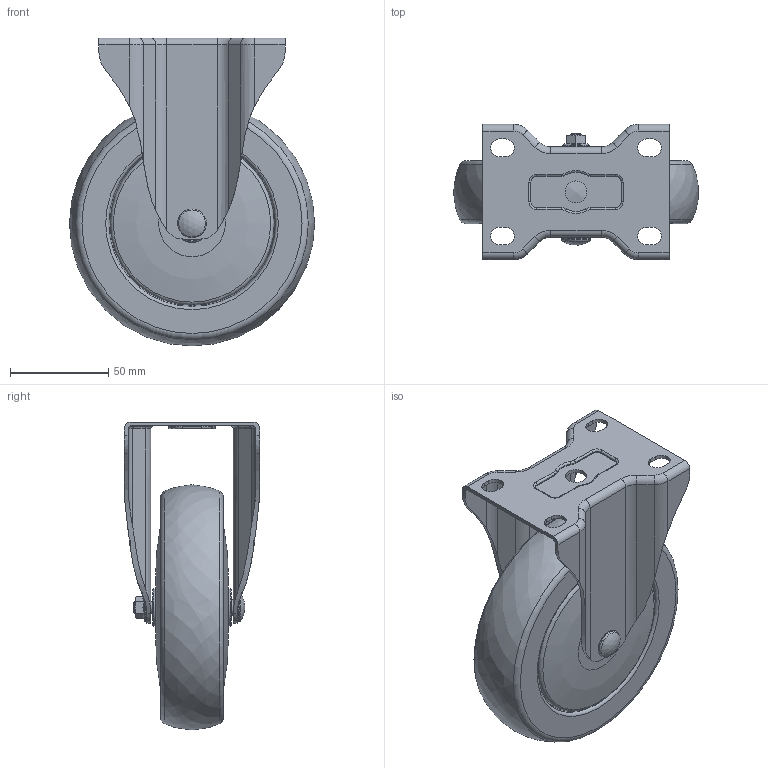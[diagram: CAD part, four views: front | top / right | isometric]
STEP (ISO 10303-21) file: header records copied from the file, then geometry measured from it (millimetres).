
FILE_DESCRIPTION((''),'2;1');
FILE_NAME('E:\GL-홈피용3D\3d step\가져온 구성요소\GL-125-ARF\GL-125-ARF.stp','2011-11-21T09:29:13',('Administrator'),(''),'Autodesk Inventor 2011','Autodesk Inventor 2011','');
FILE_SCHEMA(('AUTOMOTIVE_DESIGN { 1 0 10303 214 1 1 1 1 }'));
Length unit declared in the file: millimetre
Products named in the file (1): GL-125-ARF
Bounding box: 125 x 69 x 157 mm (x, y, z)
Volume: 313916.7 mm3; surface area: 117450.5 mm2
Topology: 6 solids, 8 shells, 334 faces, 821 edges, 525 vertices
Faces by surface type: cylinder 123, plane 94, torus 91, cone 14, bspline 11, sphere 1
Full cylindrical faces by diameter (mm): 6 x2, 6.2 x1, 8 x1, 8.2 x2, 11.2 x1, 14 x1, 14.6 x1, 15 x3, 19 x2, 21.667 x2, 21.867 x2, 28.133 x2, 28.333 x2, 32.4 x2, 43 x2, 47 x2, 80.5 x2, 83.5 x2, 85 x2
Entity records: 9286 total; most frequent: CARTESIAN_POINT 2036, DIRECTION 1606, ORIENTED_EDGE 1298, AXIS2_PLACEMENT_3D 689, EDGE_CURVE 649, EDGE_LOOP 487, VERTEX_POINT 456, CIRCLE 365
